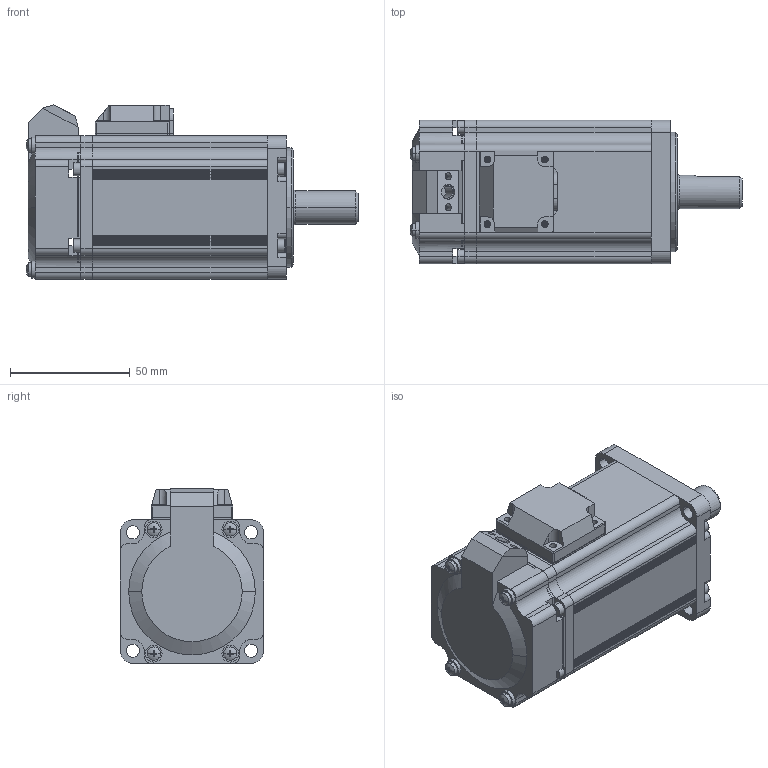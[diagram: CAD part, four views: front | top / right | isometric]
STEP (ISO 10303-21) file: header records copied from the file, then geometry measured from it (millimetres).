
FILE_DESCRIPTION (( 'STEP AP203' ), '1' );
FILE_NAME ('MS6S-60C30B1-20P4.STEP', '2021-10-20T08:58:45', ( '' ), ( '' ), 'SwSTEP 2.0', 'SolidWorks 2016', '' );
FILE_SCHEMA (( 'CONFIG_CONTROL_DESIGN' ));
Length unit declared in the file: millimetre
Products named in the file (2): MS6S-60C30B1-20P4
Bounding box: 138.89 x 60 x 73 mm (x, y, z)
Surface area: 44090.5 mm2 (no closed solid volume)
Topology: 0 solids, 24 shells, 533 faces, 1717 edges, 1202 vertices
Faces by surface type: cylinder 260, plane 231, torus 22, cone 11, sphere 8, bspline 1
Entity records: 19657 total; most frequent: CARTESIAN_POINT 4013, DIRECTION 3565, ORIENTED_EDGE 2734, EDGE_CURVE 1717, AXIS2_PLACEMENT_3D 1336, VERTEX_POINT 1202, VECTOR 893, LINE 893
